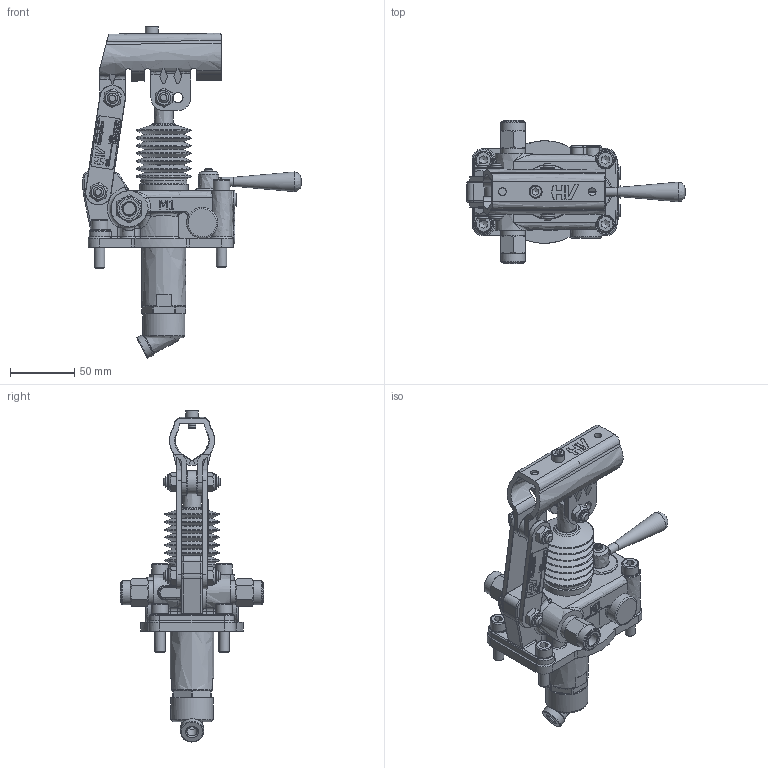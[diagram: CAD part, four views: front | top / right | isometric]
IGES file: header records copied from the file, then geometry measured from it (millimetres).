
Global section: file name: No Iges File Name specified; native system: Autodesk Inventor 2013; preprocessor: AutoDesk Inventor Iges Exporter R2013; author: christian.scardovi; date: 20240307.133943; units: millimetre
Bounding box: 170 x 112 x 258.8 mm (x, y, z)
Volume: 452679.7 mm3; surface area: 124849.4 mm2
Topology: 3 solids, 3 shells, 1713 faces, 4377 edges, 2781 vertices
Faces by surface type: bspline 1713
